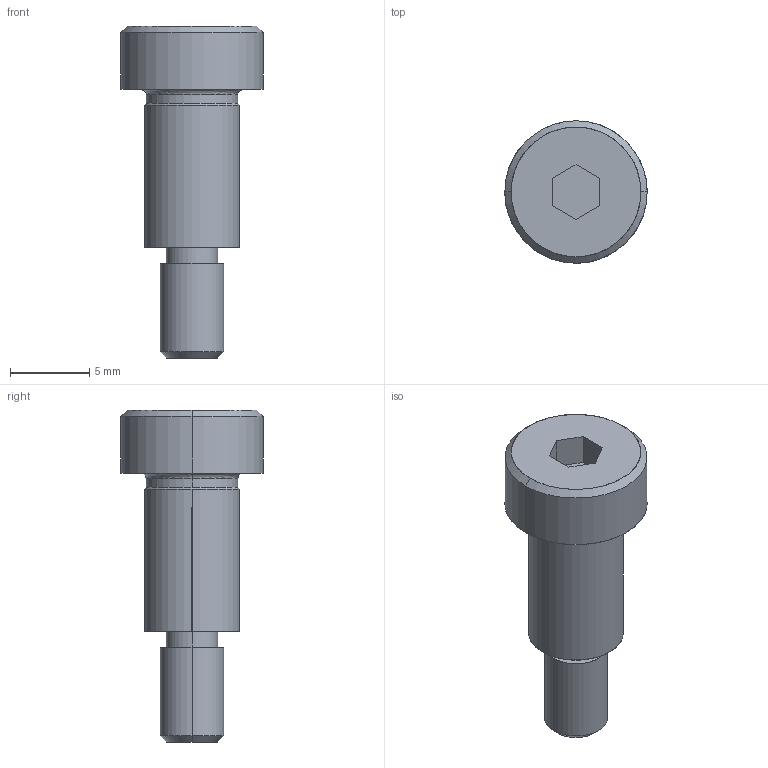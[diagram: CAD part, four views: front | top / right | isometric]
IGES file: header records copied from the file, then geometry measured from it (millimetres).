
Global section: file name: E:\UnigraphicsGraphicData\MISUMI_PRESS-PARTS\IGES\3d_msb6-10_00568_r00.igs; native system: NX V5.0; preprocessor: UGS NX IGES V5.0; author: MISUMI; date: 20110105.161514; units: millimetre
Bounding box: 9 x 9 x 21 mm (x, y, z)
Surface area: 533.5 mm2 (no closed solid volume)
Topology: 0 solids, 0 shells, 30 faces, 172 edges, 172 vertices
Faces by surface type: bspline 30
